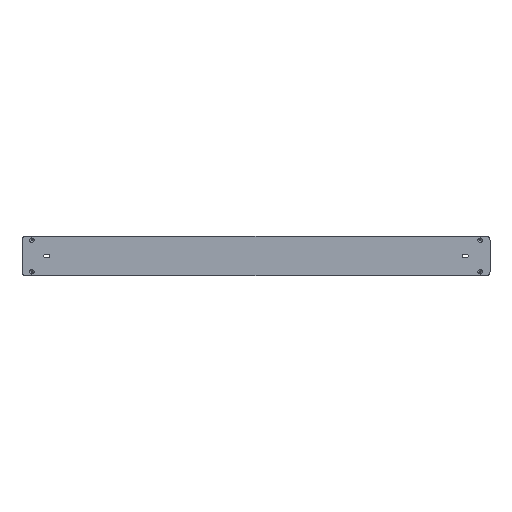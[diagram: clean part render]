
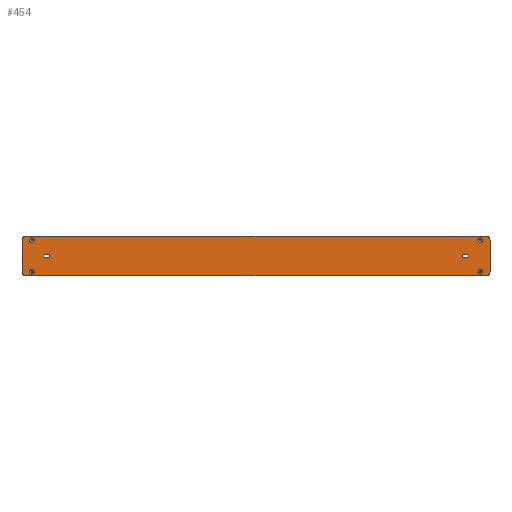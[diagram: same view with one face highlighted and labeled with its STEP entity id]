
A CAD part, top view. The second image highlights one B-rep face of the part: STEP entity #454.
In plain terms, the highlighted planar face has unit normal (0, 0, 1).
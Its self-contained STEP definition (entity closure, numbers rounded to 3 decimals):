
#36=CIRCLE('',#494,2.25);
#37=CIRCLE('',#495,2.25);
#38=CIRCLE('',#496,4.59);
#39=CIRCLE('',#497,4.59);
#40=CIRCLE('',#498,4.59);
#41=CIRCLE('',#499,4.59);
#42=CIRCLE('',#500,8.);
#43=CIRCLE('',#501,8.);
#44=CIRCLE('',#502,8.);
#45=CIRCLE('',#503,8.);
#46=CIRCLE('',#504,2.25);
#47=CIRCLE('',#505,2.25);
#64=ORIENTED_EDGE('',*,*,#184,.F.);
#65=ORIENTED_EDGE('',*,*,#185,.T.);
#66=ORIENTED_EDGE('',*,*,#186,.T.);
#67=ORIENTED_EDGE('',*,*,#187,.T.);
#68=ORIENTED_EDGE('',*,*,#188,.T.);
#69=ORIENTED_EDGE('',*,*,#189,.T.);
#70=ORIENTED_EDGE('',*,*,#190,.T.);
#71=ORIENTED_EDGE('',*,*,#191,.T.);
#72=ORIENTED_EDGE('',*,*,#192,.T.);
#73=ORIENTED_EDGE('',*,*,#193,.T.);
#74=ORIENTED_EDGE('',*,*,#194,.T.);
#75=ORIENTED_EDGE('',*,*,#195,.T.);
#76=ORIENTED_EDGE('',*,*,#196,.T.);
#77=ORIENTED_EDGE('',*,*,#197,.T.);
#78=ORIENTED_EDGE('',*,*,#198,.T.);
#79=ORIENTED_EDGE('',*,*,#199,.T.);
#80=ORIENTED_EDGE('',*,*,#200,.F.);
#81=ORIENTED_EDGE('',*,*,#201,.T.);
#82=ORIENTED_EDGE('',*,*,#202,.T.);
#83=ORIENTED_EDGE('',*,*,#203,.T.);
#184=EDGE_CURVE('',#244,#245,#288,.T.);
#185=EDGE_CURVE('',#244,#246,#36,.T.);
#186=EDGE_CURVE('',#246,#247,#289,.T.);
#187=EDGE_CURVE('',#247,#245,#37,.T.);
#188=EDGE_CURVE('',#248,#248,#38,.T.);
#189=EDGE_CURVE('',#249,#249,#39,.T.);
#190=EDGE_CURVE('',#250,#250,#40,.T.);
#191=EDGE_CURVE('',#251,#251,#41,.T.);
#192=EDGE_CURVE('',#252,#253,#290,.T.);
#193=EDGE_CURVE('',#253,#254,#42,.T.);
#194=EDGE_CURVE('',#254,#255,#291,.T.);
#195=EDGE_CURVE('',#255,#256,#43,.T.);
#196=EDGE_CURVE('',#256,#257,#292,.T.);
#197=EDGE_CURVE('',#257,#258,#44,.T.);
#198=EDGE_CURVE('',#258,#259,#293,.T.);
#199=EDGE_CURVE('',#259,#252,#45,.T.);
#200=EDGE_CURVE('',#260,#261,#294,.T.);
#201=EDGE_CURVE('',#260,#262,#46,.T.);
#202=EDGE_CURVE('',#262,#263,#295,.T.);
#203=EDGE_CURVE('',#263,#261,#47,.T.);
#244=VERTEX_POINT('',#692);
#245=VERTEX_POINT('',#693);
#246=VERTEX_POINT('',#695);
#247=VERTEX_POINT('',#697);
#248=VERTEX_POINT('',#700);
#249=VERTEX_POINT('',#702);
#250=VERTEX_POINT('',#704);
#251=VERTEX_POINT('',#706);
#252=VERTEX_POINT('',#708);
#253=VERTEX_POINT('',#709);
#254=VERTEX_POINT('',#711);
#255=VERTEX_POINT('',#713);
#256=VERTEX_POINT('',#715);
#257=VERTEX_POINT('',#717);
#258=VERTEX_POINT('',#719);
#259=VERTEX_POINT('',#721);
#260=VERTEX_POINT('',#724);
#261=VERTEX_POINT('',#725);
#262=VERTEX_POINT('',#727);
#263=VERTEX_POINT('',#729);
#288=LINE('',#691,#320);
#289=LINE('',#696,#321);
#290=LINE('',#707,#322);
#291=LINE('',#712,#323);
#292=LINE('',#716,#324);
#293=LINE('',#720,#325);
#294=LINE('',#723,#326);
#295=LINE('',#728,#327);
#320=VECTOR('',#551,1000.);
#321=VECTOR('',#554,1000.);
#322=VECTOR('',#565,1000.);
#323=VECTOR('',#568,1000.);
#324=VECTOR('',#571,1000.);
#325=VECTOR('',#574,1000.);
#326=VECTOR('',#577,1000.);
#327=VECTOR('',#580,1000.);
#352=EDGE_LOOP('',(#64,#65,#66,#67));
#353=EDGE_LOOP('',(#68));
#354=EDGE_LOOP('',(#69));
#355=EDGE_LOOP('',(#70));
#356=EDGE_LOOP('',(#71));
#357=EDGE_LOOP('',(#72,#73,#74,#75,#76,#77,#78,#79));
#358=EDGE_LOOP('',(#80,#81,#82,#83));
#398=FACE_BOUND('',#352,.T.);
#399=FACE_BOUND('',#353,.T.);
#400=FACE_BOUND('',#354,.T.);
#401=FACE_BOUND('',#355,.T.);
#402=FACE_BOUND('',#356,.T.);
#403=FACE_BOUND('',#357,.T.);
#404=FACE_BOUND('',#358,.T.);
#444=PLANE('',#493);
#454=ADVANCED_FACE('',(#398,#399,#400,#401,#402,#403,#404),#444,.T.);
#493=AXIS2_PLACEMENT_3D('',#690,#549,#550);
#494=AXIS2_PLACEMENT_3D('',#694,#552,#553);
#495=AXIS2_PLACEMENT_3D('',#698,#555,#556);
#496=AXIS2_PLACEMENT_3D('',#699,#557,#558);
#497=AXIS2_PLACEMENT_3D('',#701,#559,#560);
#498=AXIS2_PLACEMENT_3D('',#703,#561,#562);
#499=AXIS2_PLACEMENT_3D('',#705,#563,#564);
#500=AXIS2_PLACEMENT_3D('',#710,#566,#567);
#501=AXIS2_PLACEMENT_3D('',#714,#569,#570);
#502=AXIS2_PLACEMENT_3D('',#718,#572,#573);
#503=AXIS2_PLACEMENT_3D('',#722,#575,#576);
#504=AXIS2_PLACEMENT_3D('',#726,#578,#579);
#505=AXIS2_PLACEMENT_3D('',#730,#581,#582);
#549=DIRECTION('',(0.,0.,1.));
#550=DIRECTION('',(1.,0.,0.));
#551=DIRECTION('',(1.,0.,0.));
#552=DIRECTION('',(0.,0.,-1.));
#553=DIRECTION('',(0.,-1.,0.));
#554=DIRECTION('',(1.,0.,0.));
#555=DIRECTION('',(0.,0.,-1.));
#556=DIRECTION('',(0.,1.,0.));
#557=DIRECTION('',(0.,0.,-1.));
#558=DIRECTION('',(0.,1.,0.));
#559=DIRECTION('',(0.,0.,-1.));
#560=DIRECTION('',(0.,1.,0.));
#561=DIRECTION('',(0.,0.,-1.));
#562=DIRECTION('',(0.,1.,0.));
#563=DIRECTION('',(0.,0.,-1.));
#564=DIRECTION('',(0.,1.,0.));
#565=DIRECTION('',(-1.,0.,0.));
#566=DIRECTION('',(0.,0.,1.));
#567=DIRECTION('',(1.,0.,0.));
#568=DIRECTION('',(0.,-1.,0.));
#569=DIRECTION('',(0.,0.,1.));
#570=DIRECTION('',(1.,0.,0.));
#571=DIRECTION('',(1.,0.,0.));
#572=DIRECTION('',(0.,0.,1.));
#573=DIRECTION('',(1.,0.,0.));
#574=DIRECTION('',(0.,1.,0.));
#575=DIRECTION('',(0.,0.,1.));
#576=DIRECTION('',(1.,0.,0.));
#577=DIRECTION('',(1.,0.,0.));
#578=DIRECTION('',(0.,0.,-1.));
#579=DIRECTION('',(0.,-1.,0.));
#580=DIRECTION('',(1.,0.,0.));
#581=DIRECTION('',(0.,0.,-1.));
#582=DIRECTION('',(0.,1.,0.));
#690=CARTESIAN_POINT('',(0.,0.,3.));
#691=CARTESIAN_POINT('',(-429.5,-2.25,3.));
#692=CARTESIAN_POINT('',(-429.5,-2.25,3.));
#693=CARTESIAN_POINT('',(-420.5,-2.25,3.));
#694=CARTESIAN_POINT('',(-429.5,0.,3.));
#695=CARTESIAN_POINT('',(-429.5,2.25,3.));
#696=CARTESIAN_POINT('',(-429.5,2.25,3.));
#697=CARTESIAN_POINT('',(-420.5,2.25,3.));
#698=CARTESIAN_POINT('',(-420.5,0.,3.));
#699=CARTESIAN_POINT('',(455.,-32.,3.));
#700=CARTESIAN_POINT('',(455.,-27.41,3.));
#701=CARTESIAN_POINT('',(455.,32.,3.));
#702=CARTESIAN_POINT('',(455.,36.59,3.));
#703=CARTESIAN_POINT('',(-455.,32.,3.));
#704=CARTESIAN_POINT('',(-455.,36.59,3.));
#705=CARTESIAN_POINT('',(-455.,-32.,3.));
#706=CARTESIAN_POINT('',(-455.,-27.41,3.));
#707=CARTESIAN_POINT('',(475.,40.,3.));
#708=CARTESIAN_POINT('',(467.,40.,3.));
#709=CARTESIAN_POINT('',(-467.,40.,3.));
#710=CARTESIAN_POINT('',(-467.,32.,3.));
#711=CARTESIAN_POINT('',(-475.,32.,3.));
#712=CARTESIAN_POINT('',(-475.,40.,3.));
#713=CARTESIAN_POINT('',(-475.,-32.,3.));
#714=CARTESIAN_POINT('',(-467.,-32.,3.));
#715=CARTESIAN_POINT('',(-467.,-40.,3.));
#716=CARTESIAN_POINT('',(-475.,-40.,3.));
#717=CARTESIAN_POINT('',(467.,-40.,3.));
#718=CARTESIAN_POINT('',(467.,-32.,3.));
#719=CARTESIAN_POINT('',(475.,-32.,3.));
#720=CARTESIAN_POINT('',(475.,-40.,3.));
#721=CARTESIAN_POINT('',(475.,32.,3.));
#722=CARTESIAN_POINT('',(467.,32.,3.));
#723=CARTESIAN_POINT('',(420.5,-2.25,3.));
#724=CARTESIAN_POINT('',(420.5,-2.25,3.));
#725=CARTESIAN_POINT('',(429.5,-2.25,3.));
#726=CARTESIAN_POINT('',(420.5,0.,3.));
#727=CARTESIAN_POINT('',(420.5,2.25,3.));
#728=CARTESIAN_POINT('',(420.5,2.25,3.));
#729=CARTESIAN_POINT('',(429.5,2.25,3.));
#730=CARTESIAN_POINT('',(429.5,0.,3.));
